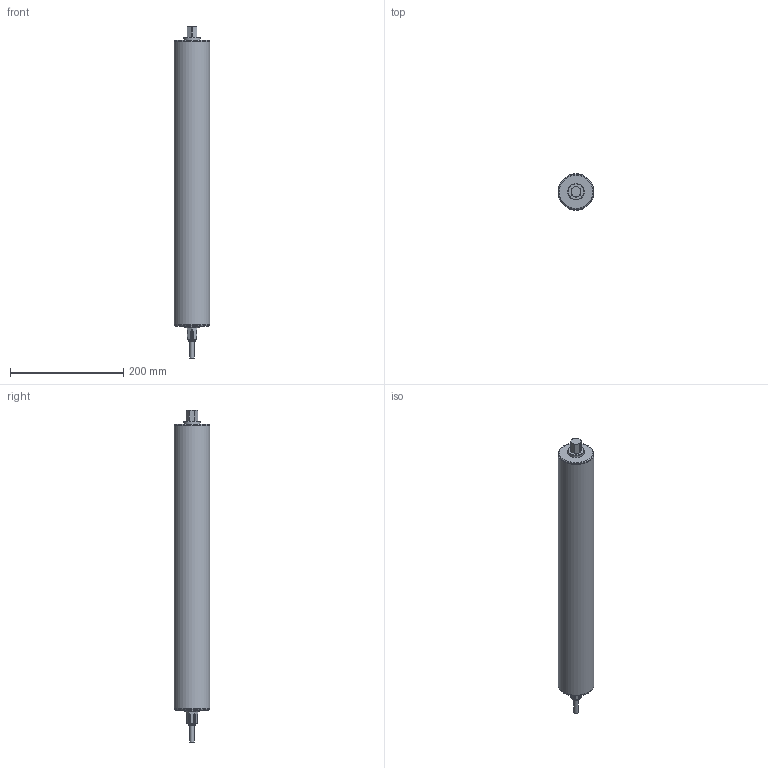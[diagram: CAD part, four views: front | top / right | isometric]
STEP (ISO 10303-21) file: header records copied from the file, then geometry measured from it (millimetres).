
FILE_DESCRIPTION(/* description */ (''),/* implementation_level */ '2;1');
FILE_NAME(/* name */ '\\192.168.101.115\営業本部\EG\X2\30BB30F330BF30FC\X0\\99_各個人\08_中村紗\３Ｄ\PM635FS-()-500-D-024給電軸ネジ仕様.stp',/* time_stamp */ '2015-04-22T09:04:04+09:00',/* author */ ('UMME'),/* organization */ (''),/* preprocessor_version */ 'ST-DEVELOPER v15.2',/* originating_system */ 'Autodesk Inventor 2014',/* authorisation */ '');
FILE_SCHEMA (('AUTOMOTIVE_DESIGN { 1 0 10303 214 3 1 1 }'));
Length unit declared in the file: millimetre
Products named in the file (1): PM635FS-()-500-D-024給電軸ネジ仕様
Bounding box: 63.5 x 63.5 x 587.3 mm (x, y, z)
Volume: 1618749.1 mm3; surface area: 110936 mm2
Topology: 1 solids, 1 shells, 292 faces, 841 edges, 559 vertices
Faces by surface type: cone 135, cylinder 73, torus 62, plane 22
Full cylindrical faces by diameter (mm): 8 x1, 14 x1, 26.5 x1, 29 x1, 61.9 x1, 62 x1, 63.5 x1
Entity records: 11154 total; most frequent: CARTESIAN_POINT 4249, ORIENTED_EDGE 1658, DIRECTION 1320, EDGE_CURVE 829, AXIS2_PLACEMENT_3D 582, VERTEX_POINT 559, EDGE_LOOP 312, ADVANCED_FACE 292
